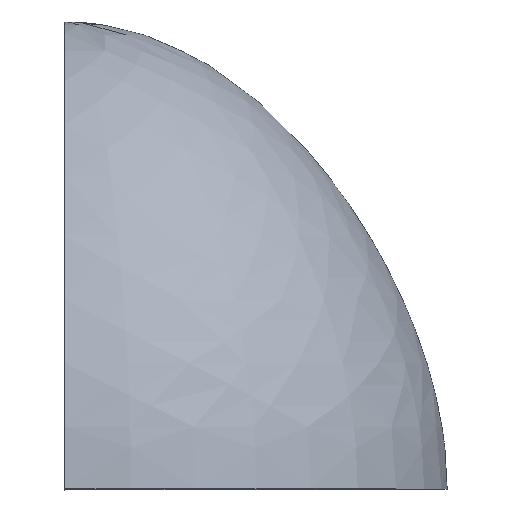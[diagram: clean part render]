
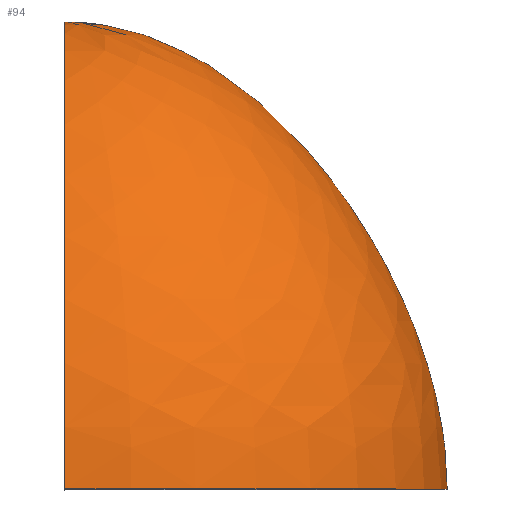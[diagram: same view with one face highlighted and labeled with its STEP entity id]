
A CAD part, top view. The second image highlights one B-rep face of the part: STEP entity #94.
In plain terms, the highlighted face is a revolution surface.
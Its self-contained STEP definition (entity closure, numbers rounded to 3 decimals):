
#52=CARTESIAN_POINT('Control Point',(0.,0.,90.)) ;
#53=CARTESIAN_POINT('Control Point',(0.,28.425,90.)) ;
#54=CARTESIAN_POINT('Control Point',(0.,59.479,78.16)) ;
#55=CARTESIAN_POINT('Control Point',(0.,93.16,54.479)) ;
#56=CARTESIAN_POINT('Control Point',(0.,110.,28.425)) ;
#57=CARTESIAN_POINT('Control Point',(0.,110.,0.)) ;
#58=CARTESIAN_POINT('Axis1P Location',(0.,0.,0.)) ;
#63=CARTESIAN_POINT('Control Point',(0.,0.,-90.)) ;
#64=CARTESIAN_POINT('Control Point',(0.,28.425,-90.)) ;
#65=CARTESIAN_POINT('Control Point',(0.,59.479,-78.16)) ;
#66=CARTESIAN_POINT('Control Point',(0.,93.16,-54.479)) ;
#67=CARTESIAN_POINT('Control Point',(0.,110.,-28.425)) ;
#68=CARTESIAN_POINT('Control Point',(0.,110.,0.)) ;
#69=CARTESIAN_POINT('Vertex',(0.,0.,-90.)) ;
#71=CARTESIAN_POINT('Vertex',(0.,110.,0.)) ;
#75=CARTESIAN_POINT('Control Point',(0.,0.,90.)) ;
#76=CARTESIAN_POINT('Control Point',(0.,28.425,90.)) ;
#77=CARTESIAN_POINT('Control Point',(0.,59.479,78.16)) ;
#78=CARTESIAN_POINT('Control Point',(0.,93.16,54.479)) ;
#79=CARTESIAN_POINT('Control Point',(0.,110.,28.425)) ;
#80=CARTESIAN_POINT('Control Point',(0.,110.,0.)) ;
#81=CARTESIAN_POINT('Vertex',(0.,0.,90.)) ;
#84=CARTESIAN_POINT('Axis2P3D Location',(0.,0.,0.)) ;
#59=DIRECTION('Axis1P Direction',(0.,1.,0.)) ;
#85=DIRECTION('Axis2P3D Direction',(0.,1.,0.)) ;
#86=AXIS2_PLACEMENT_3D('Circle Axis2P3D',#84,#85,$) ;
#90=ORIENTED_EDGE('',*,*,#73,.T.) ;
#91=ORIENTED_EDGE('',*,*,#83,.F.) ;
#92=ORIENTED_EDGE('',*,*,#88,.T.) ;
#94=ADVANCED_FACE('PartBody',(#93),#61,.T.) ;
#60=AXIS1_PLACEMENT('Revolution Surface Axis1P',#58,#59) ;
#51=B_SPLINE_CURVE_WITH_KNOTS('',5,(#52,#53,#54,#55,#56,#57),.UNSPECIFIED.,.F.,.U.,(6,6),(0.,142.127),.UNSPECIFIED.) ;
#62=B_SPLINE_CURVE_WITH_KNOTS('',5,(#63,#64,#65,#66,#67,#68),.UNSPECIFIED.,.F.,.U.,(6,6),(0.,142.127),.UNSPECIFIED.) ;
#74=B_SPLINE_CURVE_WITH_KNOTS('',5,(#75,#76,#77,#78,#79,#80),.UNSPECIFIED.,.F.,.U.,(6,6),(0.,142.127),.UNSPECIFIED.) ;
#87=CIRCLE('generated circle',#86,90.) ;
#73=EDGE_CURVE('',#70,#72,#62,.T.) ;
#83=EDGE_CURVE('',#82,#72,#74,.T.) ;
#88=EDGE_CURVE('',#82,#70,#87,.T.) ;
#89=EDGE_LOOP('',(#90,#91,#92)) ;
#93=FACE_OUTER_BOUND('',#89,.T.) ;
#61=SURFACE_OF_REVOLUTION('Surface of Revolution',#51,#60) ;
#70=VERTEX_POINT('',#69) ;
#72=VERTEX_POINT('',#71) ;
#82=VERTEX_POINT('',#81) ;
